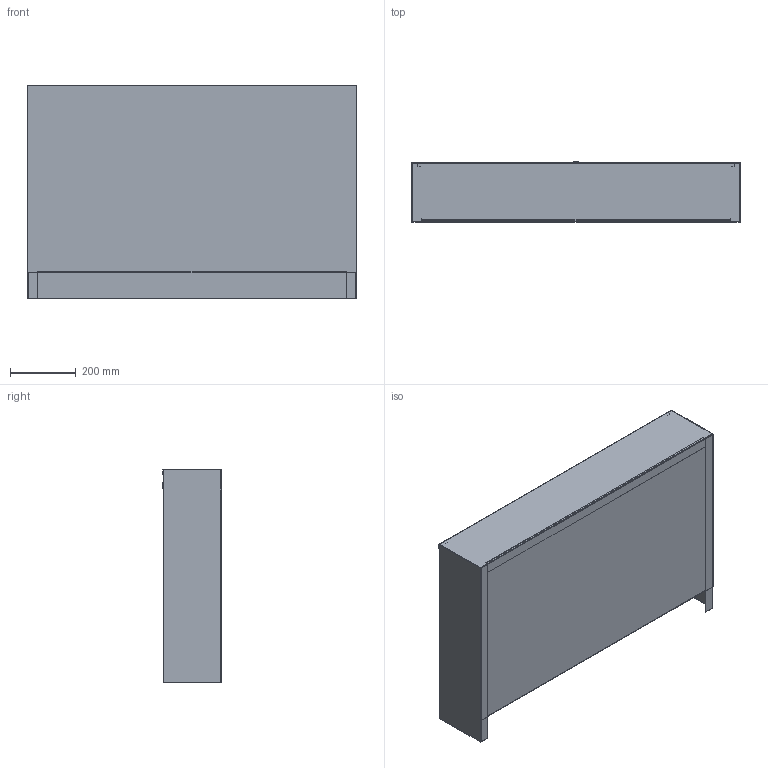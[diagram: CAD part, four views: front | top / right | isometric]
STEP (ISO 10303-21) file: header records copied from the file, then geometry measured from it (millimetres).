
FILE_DESCRIPTION(('TFLEX Exchange Step'),'2;1');
FILE_NAME('Manifold cabinet VTc.541.U.05 Valtec.stp', '2023-10-11T14:30:08+03:00',('denis'),('Unknown organisation'),'TFLEX Exchange 2023.0','T-FLEX CAD','Unknown authorisation');
FILE_SCHEMA( ('AUTOMOTIVE_DESIGN { 1 0 10303 214 1 1 1 1 }') );
Length unit declared in the file: millimetre
Products named in the file (1): Nodes
Bounding box: 1000 x 182.5 x 650 mm (x, y, z)
Volume: 1680873.9 mm3; surface area: 3501046.4 mm2
Topology: 5 solids, 6 shells, 315 faces, 842 edges, 529 vertices
Faces by surface type: plane 205, cylinder 79, cone 23, bspline 6, torus 2
Full cylindrical faces by diameter (mm): 10 x1, 12 x1, 16 x1, 20 x2
Entity records: 11497 total; most frequent: CARTESIAN_POINT 3648, ORIENTED_EDGE 1684, DIRECTION 1550, EDGE_CURVE 842, VECTOR 574, LINE 574, VERTEX_POINT 529, AXIS2_PLACEMENT_3D 488
